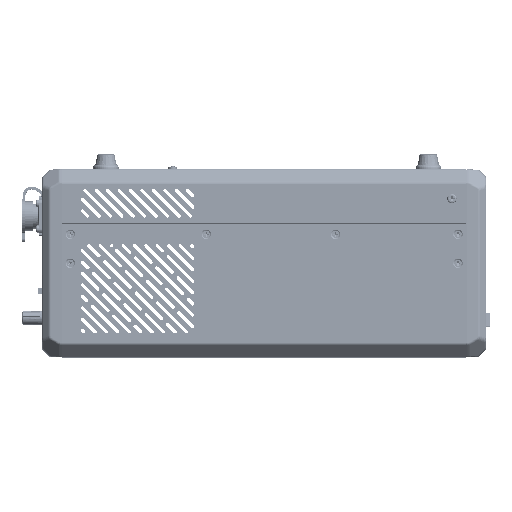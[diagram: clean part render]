
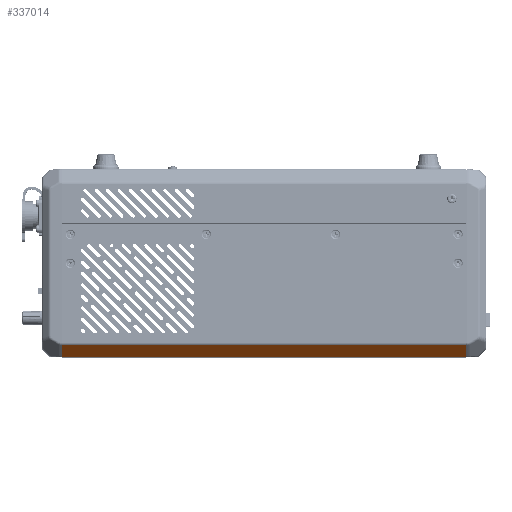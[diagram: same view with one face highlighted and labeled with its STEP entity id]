
A CAD part, left-side view. The second image highlights one B-rep face of the part: STEP entity #337014.
In plain terms, the highlighted planar face has unit normal (-0.707, 0, -0.707).
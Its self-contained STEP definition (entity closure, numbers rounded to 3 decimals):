
#330121=DIRECTION('',(0.,1.,0.));
#330122=VECTOR('',#330121,300.);
#330123=CARTESIAN_POINT('',(-241.764,47.5,-197.657));
#330124=LINE('',#330123,#330122);
#330125=DIRECTION('',(0.707,0.,-0.707));
#330126=VECTOR('',#330125,12.154);
#330127=CARTESIAN_POINT('',(-250.358,347.5,-189.063));
#330128=LINE('',#330127,#330126);
#330129=DIRECTION('',(0.,1.,0.));
#330130=VECTOR('',#330129,300.);
#330131=CARTESIAN_POINT('',(-250.358,47.5,-189.063));
#330132=LINE('',#330131,#330130);
#330133=DIRECTION('',(0.707,0.,-0.707));
#330134=VECTOR('',#330133,12.154);
#330135=CARTESIAN_POINT('',(-250.358,47.5,-189.063));
#330136=LINE('',#330135,#330134);
#334917=CARTESIAN_POINT('',(-241.764,47.5,-197.657));
#334918=CARTESIAN_POINT('',(-241.764,347.5,-197.657));
#334919=VERTEX_POINT('',#334917);
#334920=VERTEX_POINT('',#334918);
#335121=CARTESIAN_POINT('',(-250.358,47.5,-189.063));
#335122=CARTESIAN_POINT('',(-250.358,347.5,-189.063));
#335123=VERTEX_POINT('',#335121);
#335124=VERTEX_POINT('',#335122);
#337002=CARTESIAN_POINT('',(-246.061,197.5,-193.36));
#337003=DIRECTION('',(-0.707,0.,-0.707));
#337004=DIRECTION('',(0.707,0.,-0.707));
#337005=AXIS2_PLACEMENT_3D('',#337002,#337003,#337004);
#337006=PLANE('',#337005);
#337007=ORIENTED_EDGE('',*,*,#336992,.T.);
#337008=ORIENTED_EDGE('',*,*,#336967,.F.);
#337009=ORIENTED_EDGE('',*,*,#336879,.F.);
#337011=ORIENTED_EDGE('',*,*,#337010,.T.);
#337012=EDGE_LOOP('',(#337007,#337008,#337009,#337011));
#337013=FACE_OUTER_BOUND('',#337012,.F.);
#337014=ADVANCED_FACE('',(#337013),#337006,.T.);
#336879=EDGE_CURVE('',#335123,#335124,#330132,.T.);
#336967=EDGE_CURVE('',#335124,#334920,#330128,.T.);
#336992=EDGE_CURVE('',#334919,#334920,#330124,.T.);
#337010=EDGE_CURVE('',#335123,#334919,#330136,.T.);
